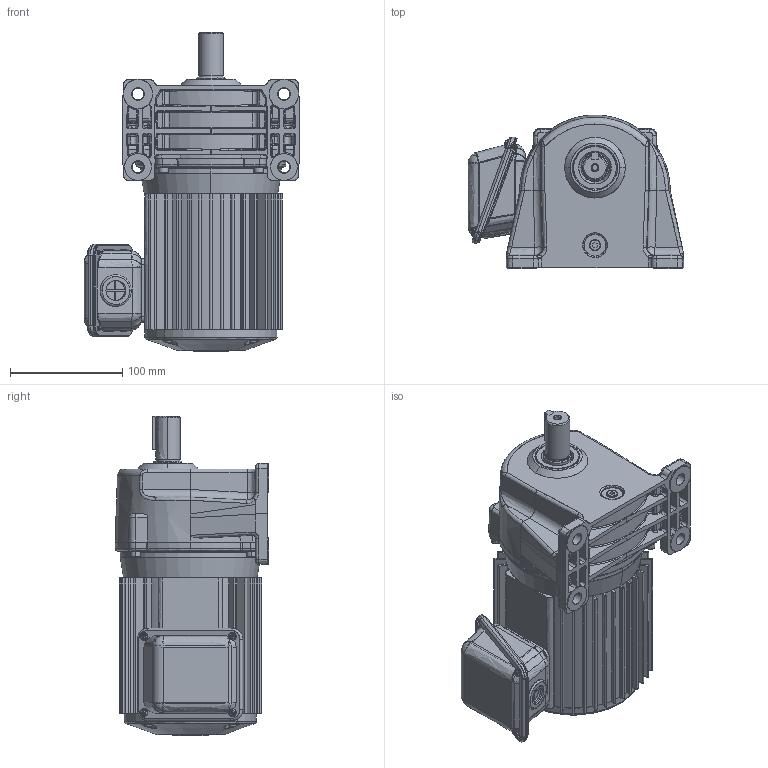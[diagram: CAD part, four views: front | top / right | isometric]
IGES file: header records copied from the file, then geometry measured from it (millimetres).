
Start section: SolidWorks IGES file using analytic representation for surfaces
Global section: file name: \\100.100.100.8\1_共有作業フォルダ\1-5_３Ｄデータ\solidworks\personal-folder\H.Nagayama\SGP1外形\P1(3D)\igs\TML2-02-(40~80).IGS; native system: SolidWorks 2018; preprocessor: SolidWorks 2018; author: sigma-giken; date: 200512.131639; units: millimetre
Bounding box: 192.18 x 137 x 284.5 mm (x, y, z)
Surface area: 337506.7 mm2 (no closed solid volume)
Topology: 0 solids, 0 shells, 1540 faces, 17691 edges, 17659 vertices
Faces by surface type: bspline 812, revolution 728
